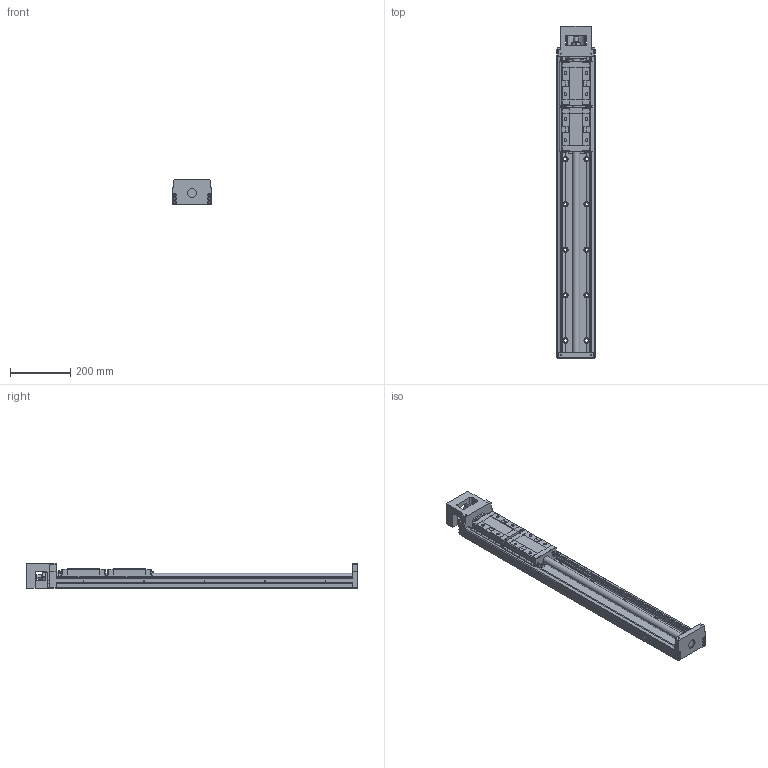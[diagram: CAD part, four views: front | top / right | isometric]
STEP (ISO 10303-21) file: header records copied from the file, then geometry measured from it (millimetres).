
FILE_DESCRIPTION(('no description'),'unknown implementation level');
FILE_NAME('KK13025P980A2F0000_FILE_16.stp',' ',('HIWIN GmbH'),('CADClick - KiM GmbH - www.kimweb.de'),'unknown preprocess','ACIS','unknown authorization');
FILE_SCHEMA(('automotive_design'));
Length unit declared in the file: millimetre
Products named in the file (3): KK13025P980A2F0000_FILE_1; KK130_FILE; KK13025P980A2F0000_FILE
Bounding box: 130 x 1098 x 83 mm (x, y, z)
Volume: 4908763.2 mm3; surface area: 696429.2 mm2
Topology: 3 solids, 13 shells, 1052 faces, 2606 edges, 1676 vertices
Faces by surface type: plane 662, cylinder 334, torus 44, cone 8, sphere 4
Entity records: 61262 total; most frequent: DIRECTION 5564, CARTESIAN_POINT 5549, STYLED_ITEM 5333, PRESENTATION_STYLE_ASSIGNMENT 5333, COLOUR_RGB 5333, ORIENTED_EDGE 5204, EDGE_CURVE 2602, CURVE_STYLE 2602
